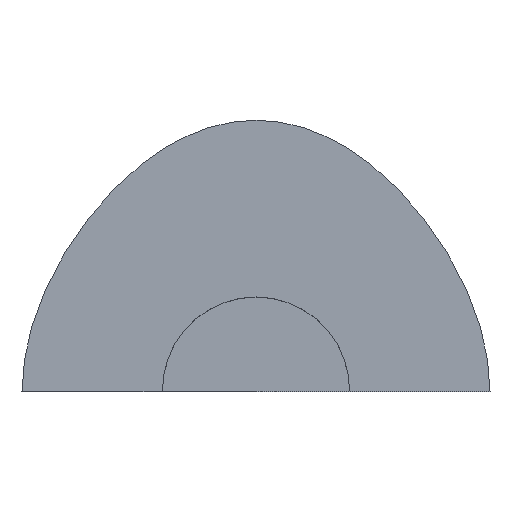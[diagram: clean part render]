
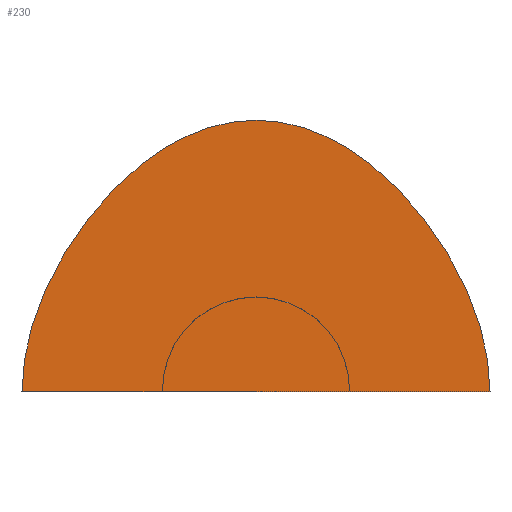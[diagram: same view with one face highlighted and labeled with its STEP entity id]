
A CAD part, top view. The second image highlights one B-rep face of the part: STEP entity #230.
In plain terms, the highlighted planar face has unit normal (0, 0, 1).
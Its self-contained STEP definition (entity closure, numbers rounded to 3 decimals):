
#193=CARTESIAN_POINT('Axis2P3D Location',(0.,58.942,0.)) ;
#198=CARTESIAN_POINT('Line Origine',(0.,0.,0.)) ;
#202=CARTESIAN_POINT('Vertex',(-125.,0.,0.)) ;
#204=CARTESIAN_POINT('Vertex',(125.,0.,0.)) ;
#208=CARTESIAN_POINT('Control Point',(0.,145.,0.)) ;
#209=CARTESIAN_POINT('Control Point',(38.288,145.,0.)) ;
#210=CARTESIAN_POINT('Control Point',(74.324,123.108,0.)) ;
#211=CARTESIAN_POINT('Control Point',(108.108,79.324,0.)) ;
#212=CARTESIAN_POINT('Control Point',(125.,38.288,0.)) ;
#213=CARTESIAN_POINT('Control Point',(125.,0.,0.)) ;
#214=CARTESIAN_POINT('Vertex',(0.,145.,0.)) ;
#218=CARTESIAN_POINT('Control Point',(0.,145.,0.)) ;
#219=CARTESIAN_POINT('Control Point',(-38.288,145.,0.)) ;
#220=CARTESIAN_POINT('Control Point',(-74.324,123.108,0.)) ;
#221=CARTESIAN_POINT('Control Point',(-108.108,79.324,0.)) ;
#222=CARTESIAN_POINT('Control Point',(-125.,38.288,0.)) ;
#223=CARTESIAN_POINT('Control Point',(-125.,0.,0.)) ;
#194=DIRECTION('Axis2P3D Direction',(0.,0.,1.)) ;
#195=DIRECTION('Axis2P3D XDirection',(1.,0.,0.)) ;
#199=DIRECTION('Vector Direction',(1.,0.,0.)) ;
#196=AXIS2_PLACEMENT_3D('Plane Axis2P3D',#193,#194,#195) ;
#226=ORIENTED_EDGE('',*,*,#206,.T.) ;
#227=ORIENTED_EDGE('',*,*,#216,.T.) ;
#228=ORIENTED_EDGE('',*,*,#224,.T.) ;
#200=VECTOR('Line Direction',#199,1.) ;
#230=ADVANCED_FACE('Fill.1',(#229),#197,.T.) ;
#207=B_SPLINE_CURVE_WITH_KNOTS('',5,(#208,#209,#210,#211,#212,#213),.UNSPECIFIED.,.F.,.U.,(6,6),(0.,191.442),.UNSPECIFIED.) ;
#217=B_SPLINE_CURVE_WITH_KNOTS('',5,(#218,#219,#220,#221,#222,#223),.UNSPECIFIED.,.F.,.U.,(6,6),(0.,191.442),.UNSPECIFIED.) ;
#206=EDGE_CURVE('',#203,#205,#201,.T.) ;
#216=EDGE_CURVE('',#205,#215,#207,.F.) ;
#224=EDGE_CURVE('',#215,#203,#217,.T.) ;
#225=EDGE_LOOP('',(#226,#227,#228)) ;
#229=FACE_OUTER_BOUND('',#225,.T.) ;
#201=LINE('Line',#198,#200) ;
#197=PLANE('',#196) ;
#203=VERTEX_POINT('',#202) ;
#205=VERTEX_POINT('',#204) ;
#215=VERTEX_POINT('',#214) ;
